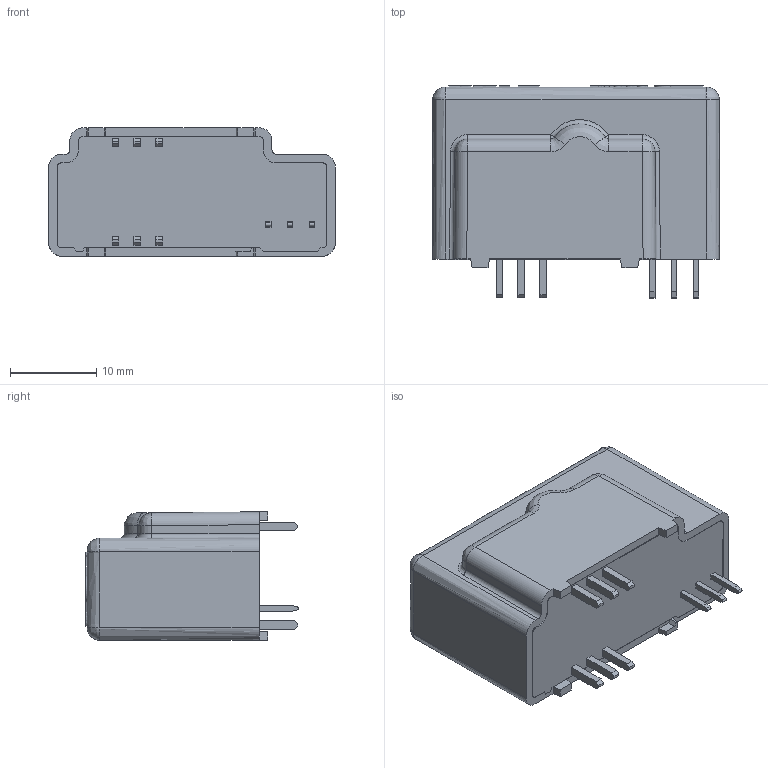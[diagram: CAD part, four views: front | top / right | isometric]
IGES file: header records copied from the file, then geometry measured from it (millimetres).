
Start section: Elysium IGES Interface
Global section: file name: \\Gva50\sd-data\Etudes\GVu\BLACK BOX\LAH 25-NP\LAH 25-NP_blackbox.igs; native system: SolidDesigner 16.00A  16-Aug-2008; preprocessor: CoCreate IGES_3D V2.2; author: Unknown; organization: Unknown; date: 20091110.121104; units: millimetre
Bounding box: 33.3 x 24.7 x 14.94 mm (x, y, z)
Volume: 8850.9 mm3; surface area: 2866.1 mm2
Topology: 1 solids, 2 shells, 1021 faces, 2764 edges, 1828 vertices
Faces by surface type: bspline 1021
